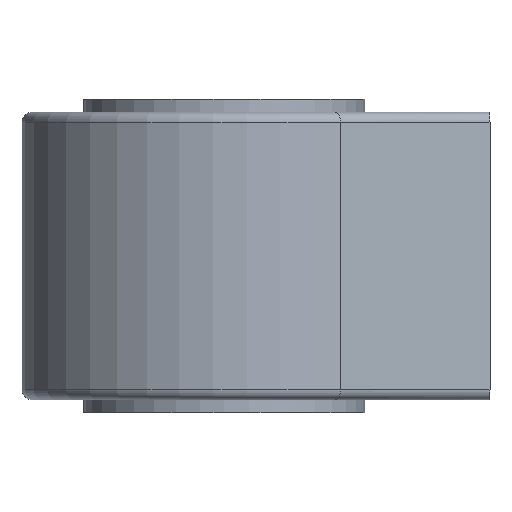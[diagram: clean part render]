
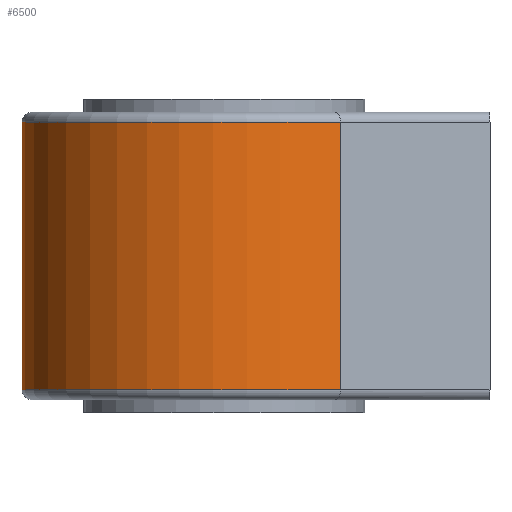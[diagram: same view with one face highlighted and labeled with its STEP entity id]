
A CAD part, front view. The second image highlights one B-rep face of the part: STEP entity #6500.
In plain terms, the highlighted cylindrical face has radius 19.8 mm (diameter 39.6 mm), a partial arc.
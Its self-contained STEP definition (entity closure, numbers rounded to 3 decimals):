
#104 = CARTESIAN_POINT ( 'NONE',  ( -19.8, 0., 14.08 ) ) ;
#249 = CYLINDRICAL_SURFACE ( 'NONE', #2026, 19.8 ) ;
#250 = ORIENTED_EDGE ( 'NONE', *, *, #3036, .T. ) ;
#268 = CARTESIAN_POINT ( 'NONE',  ( 11.331, -16.237, -13.08 ) ) ;
#430 = DIRECTION ( 'NONE',  ( 0., 0., -1. ) ) ;
#471 = FACE_OUTER_BOUND ( 'NONE', #601, .T. ) ;
#536 = ORIENTED_EDGE ( 'NONE', *, *, #5093, .T. ) ;
#601 = EDGE_LOOP ( 'NONE', ( #4777, #536, #250, #2883 ) ) ;
#752 = EDGE_CURVE ( 'NONE', #4602, #2569, #5633, .T. ) ;
#1005 = VERTEX_POINT ( 'NONE', #268 ) ;
#1050 = CARTESIAN_POINT ( 'NONE',  ( 0., 0., 13.08 ) ) ;
#1276 = AXIS2_PLACEMENT_3D ( 'NONE', #1050, #430, #7442 ) ;
#1296 = VECTOR ( 'NONE', #5782, 1000. ) ;
#2026 = AXIS2_PLACEMENT_3D ( 'NONE', #3324, #3804, #2803 ) ;
#2070 = LINE ( 'NONE', #104, #1296 ) ;
#2169 = LINE ( 'NONE', #3933, #4452 ) ;
#2569 = VERTEX_POINT ( 'NONE', #3707 ) ;
#2661 = DIRECTION ( 'NONE',  ( 0., 0., 1. ) ) ;
#2729 = CIRCLE ( 'NONE', #7470, 19.8 ) ;
#2803 = DIRECTION ( 'NONE',  ( -1., 0., 0. ) ) ;
#2815 = CARTESIAN_POINT ( 'NONE',  ( -19.8, 0., -13.08 ) ) ;
#2883 = ORIENTED_EDGE ( 'NONE', *, *, #5773, .F. ) ;
#3036 = EDGE_CURVE ( 'NONE', #3388, #1005, #2729, .T. ) ;
#3230 = CARTESIAN_POINT ( 'NONE',  ( 0., 0., -13.08 ) ) ;
#3324 = CARTESIAN_POINT ( 'NONE',  ( 0., 0., 14.08 ) ) ;
#3388 = VERTEX_POINT ( 'NONE', #2815 ) ;
#3675 = CARTESIAN_POINT ( 'NONE',  ( 11.331, -16.237, 13.08 ) ) ;
#3707 = CARTESIAN_POINT ( 'NONE',  ( -19.8, 0., 13.08 ) ) ;
#3784 = DIRECTION ( 'NONE',  ( 0., 0., -1. ) ) ;
#3804 = DIRECTION ( 'NONE',  ( 0., 0., -1. ) ) ;
#3933 = CARTESIAN_POINT ( 'NONE',  ( 11.331, -16.237, 14.08 ) ) ;
#4421 = DIRECTION ( 'NONE',  ( -1., 0., 0. ) ) ;
#4452 = VECTOR ( 'NONE', #3784, 1000. ) ;
#4602 = VERTEX_POINT ( 'NONE', #3675 ) ;
#4777 = ORIENTED_EDGE ( 'NONE', *, *, #752, .T. ) ;
#5093 = EDGE_CURVE ( 'NONE', #2569, #3388, #2070, .T. ) ;
#5633 = CIRCLE ( 'NONE', #1276, 19.8 ) ;
#5773 = EDGE_CURVE ( 'NONE', #4602, #1005, #2169, .T. ) ;
#5782 = DIRECTION ( 'NONE',  ( 0., 0., -1. ) ) ;
#6500 = ADVANCED_FACE ( 'NONE', ( #471 ), #249, .T. ) ;
#7442 = DIRECTION ( 'NONE',  ( -1., 0., 0. ) ) ;
#7470 = AXIS2_PLACEMENT_3D ( 'NONE', #3230, #2661, #4421 ) ;
